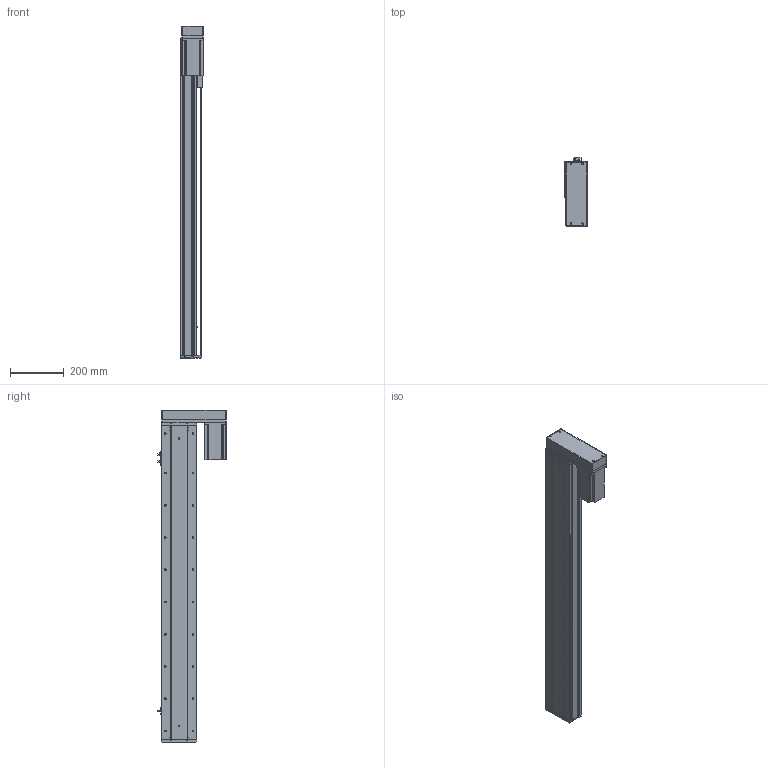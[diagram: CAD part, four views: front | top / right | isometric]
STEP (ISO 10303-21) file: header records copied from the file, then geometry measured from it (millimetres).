
FILE_DESCRIPTION (( 'STEP AP214' ), '1' );
FILE_NAME ('KSD130-P2010-S950-MR-CM.STEP', '2019-09-17T08:45:05', ( '微软用户' ), ( '微软中国' ), 'SwSTEP 2.0', 'SolidWorks 2014', '' );
FILE_SCHEMA (( 'AUTOMOTIVE_DESIGN' ));
Length unit declared in the file: millimetre
Products named in the file (11): 130宽底板半封闭丝杠-950行程; KSD130-P2010-S950-MR-CM; 130宽模组保护罩左右折; 台达ECMA－C20807AS伺服电机; 130宽模组马达安装板连板左右折丝杆; U倰嫖萇EEㄜSX672; 覜茼え100遵圉猾敕; 130宽盖板半封闭丝杠-950行程; 130宽滚珠丝杆安装板半封闭-20丝杠; 130宽马达安装板半封闭; 130遵傷裔圉猾敕
Assembly tree (12 placements, depth 2):
  KSD130-P2010-S950-MR-CM
    130宽底板半封闭丝杠-950行程
    130遵傷裔圉猾敕
    130宽马达安装板半封闭
    130宽滚珠丝杆安装板半封闭-20丝杠
    130宽盖板半封闭丝杠-950行程
    覜茼え100遵圉猾敕
    U倰嫖萇EEㄜSX672  x3
    130宽模组马达安装板连板左右折丝杆
    台达ECMA－C20807AS伺服电机
    130宽模组保护罩左右折
Bounding box: 85 x 253.7 x 1235.5 mm (x, y, z)
Volume: 4633096.4 mm3; surface area: 1287020.5 mm2
Topology: 13 solids, 13 shells, 1410 faces, 3995 edges, 2539 vertices
Faces by surface type: cylinder 681, plane 566, cone 163
Entity records: 46752 total; most frequent: CARTESIAN_POINT 8948, DIRECTION 6841, ORIENTED_EDGE 6630, EDGE_CURVE 3315, AXIS2_PLACEMENT_3D 2488, VERTEX_POINT 2163, VECTOR 1865, LINE 1865
